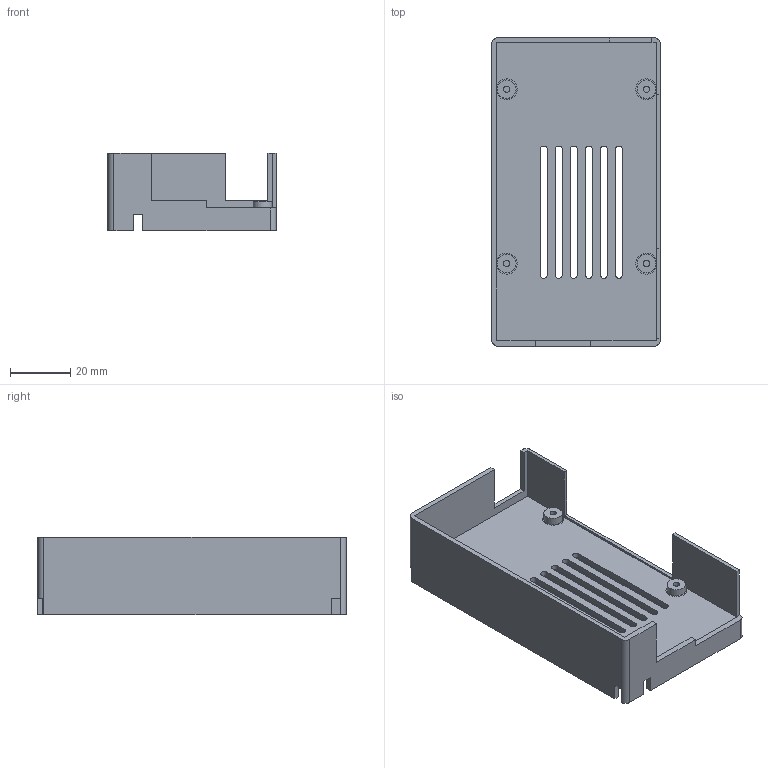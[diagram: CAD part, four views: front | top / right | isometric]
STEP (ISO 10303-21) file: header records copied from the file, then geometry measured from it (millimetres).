
FILE_DESCRIPTION(('Open CASCADE Model'),'2;1');
FILE_NAME('Open CASCADE Shape Model','2026-10-28T15:40:32',('Author'),( 'Open CASCADE'),'Open CASCADE STEP processor 7.9','Open CASCADE 7.9' ,'Unknown');
FILE_SCHEMA(('AUTOMOTIVE_DESIGN { 1 0 10303 214 1 1 1 1 }'));
Length unit declared in the file: millimetre
Products named in the file (1): Open CASCADE STEP translator 7.9 1
Bounding box: 56 x 102.6 x 25.8 mm (x, y, z)
Volume: 27252.5 mm3; surface area: 32710.5 mm2
Topology: 1 solids, 1 shells, 156 faces, 421 edges, 280 vertices
Faces by surface type: plane 116, cylinder 40
Full cylindrical faces by diameter (mm): 2.1 x4, 6.2 x4
Entity records: 10182 total; most frequent: CARTESIAN_POINT 2362, DIRECTION 1255, ORIENTED_EDGE 842, PCURVE 842, DEFINITIONAL_REPRESENTATION 842, LINE 753, VECTOR 753, EDGE_CURVE 421
